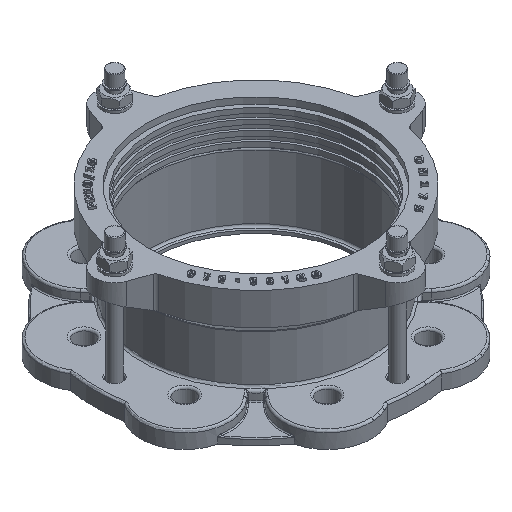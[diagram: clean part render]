
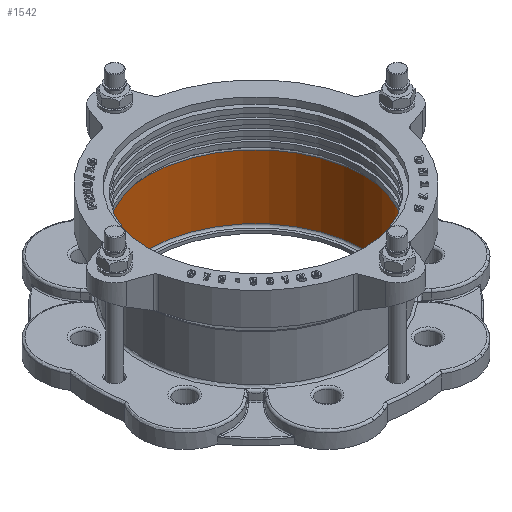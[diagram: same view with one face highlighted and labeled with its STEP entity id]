
A CAD part, isometric view. The second image highlights one B-rep face of the part: STEP entity #1542.
In plain terms, the highlighted cylindrical face has radius 105 mm (diameter 210 mm), a full revolution.
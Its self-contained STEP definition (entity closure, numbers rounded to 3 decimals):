
#1542=ADVANCED_FACE('',(#10258,#10260),#10262,.F.);
#10258=FACE_OUTER_BOUND('',#10259,.T.);
#10259=EDGE_LOOP('',(#15513));
#10260=FACE_OUTER_BOUND('',#10261,.T.);
#10261=EDGE_LOOP('',(#15514));
#10262=CYLINDRICAL_SURFACE('',#10263,105.);
#10263=AXIS2_PLACEMENT_3D('',#10264,#10265,#10266);
#10264=CARTESIAN_POINT('',(0.,0.,3.));
#10265=DIRECTION('',(0.,0.,1.));
#10266=DIRECTION('',(-1.,0.,0.));
#15513=ORIENTED_EDGE('',*,*,#19852,.F.);
#15514=ORIENTED_EDGE('',*,*,#19853,.T.);
#19852=EDGE_CURVE('',#22396,#22396,#22397,.T.);
#19853=EDGE_CURVE('',#22398,#22398,#22399,.F.);
#22396=VERTEX_POINT('',#31411);
#22397=CIRCLE('',#31412,105.);
#22398=VERTEX_POINT('',#31416);
#22399=CIRCLE('',#31417,105.);
#31411=CARTESIAN_POINT('',(0.,105.,67.));
#31412=AXIS2_PLACEMENT_3D('',#31413,#31414,#31415);
#31413=CARTESIAN_POINT('',(0.,0.,67.));
#31414=DIRECTION('',(0.,0.,-1.));
#31415=DIRECTION('',(0.,1.,0.));
#31416=CARTESIAN_POINT('',(0.,105.,5.));
#31417=AXIS2_PLACEMENT_3D('',#31418,#31419,#31420);
#31418=CARTESIAN_POINT('',(0.,0.,5.));
#31419=DIRECTION('',(0.,0.,1.));
#31420=DIRECTION('',(0.,1.,0.));
